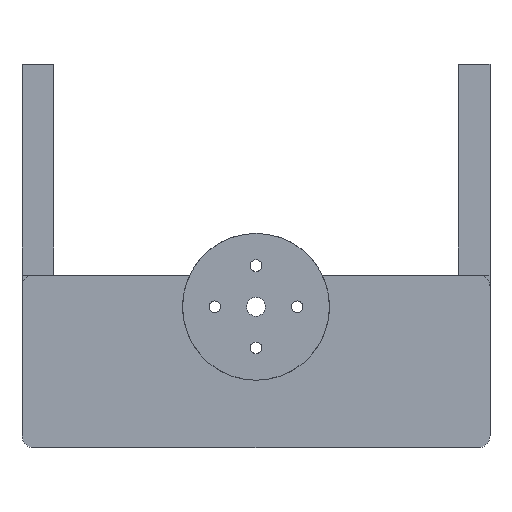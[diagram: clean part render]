
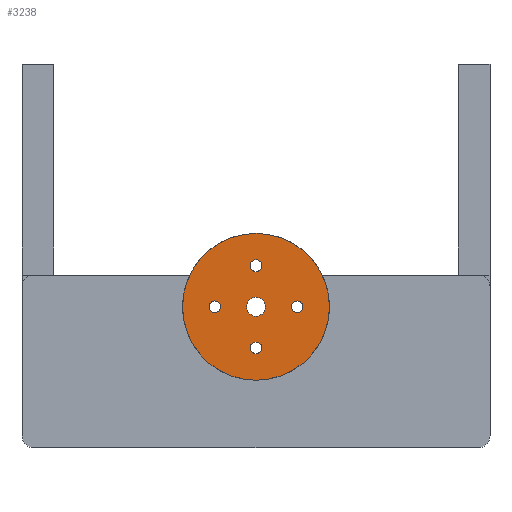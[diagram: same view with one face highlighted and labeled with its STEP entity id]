
A CAD part, front view. The second image highlights one B-rep face of the part: STEP entity #3238.
In plain terms, the highlighted planar face has unit normal (0, -1, 0).
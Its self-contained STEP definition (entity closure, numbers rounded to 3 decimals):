
#435 = CYLINDRICAL_SURFACE('',#436,12.5);
#436 = AXIS2_PLACEMENT_3D('',#437,#438,#439);
#437 = CARTESIAN_POINT('',(0.,0.,0.));
#438 = DIRECTION('',(0.,1.,0.));
#439 = DIRECTION('',(0.,-0.,1.));
#834 = CYLINDRICAL_SURFACE('',#835,1.);
#835 = AXIS2_PLACEMENT_3D('',#836,#837,#838);
#836 = CARTESIAN_POINT('',(-7.,-0.5,0.));
#837 = DIRECTION('',(0.,1.,0.));
#838 = DIRECTION('',(0.,-0.,1.));
#865 = CYLINDRICAL_SURFACE('',#866,1.);
#866 = AXIS2_PLACEMENT_3D('',#867,#868,#869);
#867 = CARTESIAN_POINT('',(0.,-0.5,-7.));
#868 = DIRECTION('',(0.,1.,0.));
#869 = DIRECTION('',(0.,-0.,1.));
#896 = CYLINDRICAL_SURFACE('',#897,1.6);
#897 = AXIS2_PLACEMENT_3D('',#898,#899,#900);
#898 = CARTESIAN_POINT('',(0.,-0.5,0.));
#899 = DIRECTION('',(0.,1.,0.));
#900 = DIRECTION('',(0.,-0.,1.));
#927 = CYLINDRICAL_SURFACE('',#928,1.);
#928 = AXIS2_PLACEMENT_3D('',#929,#930,#931);
#929 = CARTESIAN_POINT('',(7.,-0.5,0.));
#930 = DIRECTION('',(0.,1.,0.));
#931 = DIRECTION('',(0.,-0.,1.));
#2039 = VERTEX_POINT('',#2040);
#2040 = CARTESIAN_POINT('',(0.,0.,12.5));
#2111 = EDGE_CURVE('',#2039,#2039,#2112,.T.);
#2112 = SURFACE_CURVE('',#2113,(#2118,#2125),.PCURVE_S1.);
#2113 = CIRCLE('',#2114,12.5);
#2114 = AXIS2_PLACEMENT_3D('',#2115,#2116,#2117);
#2115 = CARTESIAN_POINT('',(0.,0.,0.));
#2116 = DIRECTION('',(0.,1.,0.));
#2117 = DIRECTION('',(0.,-0.,1.));
#2118 = PCURVE('',#435,#2119);
#2119 = DEFINITIONAL_REPRESENTATION('',(#2120),#2124);
#2120 = LINE('',#2121,#2122);
#2121 = CARTESIAN_POINT('',(0.,0.));
#2122 = VECTOR('',#2123,1.);
#2123 = DIRECTION('',(1.,0.));
#2124 = ( GEOMETRIC_REPRESENTATION_CONTEXT(2) 
PARAMETRIC_REPRESENTATION_CONTEXT() REPRESENTATION_CONTEXT('2D SPACE',''
  ) );
#2125 = PCURVE('',#2126,#2131);
#2126 = PLANE('',#2127);
#2127 = AXIS2_PLACEMENT_3D('',#2128,#2129,#2130);
#2128 = CARTESIAN_POINT('',(0.,0.,0.));
#2129 = DIRECTION('',(0.,1.,0.));
#2130 = DIRECTION('',(0.,-0.,1.));
#2131 = DEFINITIONAL_REPRESENTATION('',(#2132),#2136);
#2132 = CIRCLE('',#2133,12.5);
#2133 = AXIS2_PLACEMENT_2D('',#2134,#2135);
#2134 = CARTESIAN_POINT('',(0.,0.));
#2135 = DIRECTION('',(1.,0.));
#2136 = ( GEOMETRIC_REPRESENTATION_CONTEXT(2) 
PARAMETRIC_REPRESENTATION_CONTEXT() REPRESENTATION_CONTEXT('2D SPACE',''
  ) );
#2285 = VERTEX_POINT('',#2286);
#2286 = CARTESIAN_POINT('',(-7.,0.,1.));
#2307 = EDGE_CURVE('',#2285,#2285,#2308,.T.);
#2308 = SURFACE_CURVE('',#2309,(#2314,#2321),.PCURVE_S1.);
#2309 = CIRCLE('',#2310,1.);
#2310 = AXIS2_PLACEMENT_3D('',#2311,#2312,#2313);
#2311 = CARTESIAN_POINT('',(-7.,0.,0.));
#2312 = DIRECTION('',(0.,1.,0.));
#2313 = DIRECTION('',(0.,-0.,1.));
#2314 = PCURVE('',#834,#2315);
#2315 = DEFINITIONAL_REPRESENTATION('',(#2316),#2320);
#2316 = LINE('',#2317,#2318);
#2317 = CARTESIAN_POINT('',(0.,0.5));
#2318 = VECTOR('',#2319,1.);
#2319 = DIRECTION('',(1.,0.));
#2320 = ( GEOMETRIC_REPRESENTATION_CONTEXT(2) 
PARAMETRIC_REPRESENTATION_CONTEXT() REPRESENTATION_CONTEXT('2D SPACE',''
  ) );
#2321 = PCURVE('',#2126,#2322);
#2322 = DEFINITIONAL_REPRESENTATION('',(#2323),#2327);
#2323 = CIRCLE('',#2324,1.);
#2324 = AXIS2_PLACEMENT_2D('',#2325,#2326);
#2325 = CARTESIAN_POINT('',(0.,-7.));
#2326 = DIRECTION('',(1.,0.));
#2327 = ( GEOMETRIC_REPRESENTATION_CONTEXT(2) 
PARAMETRIC_REPRESENTATION_CONTEXT() REPRESENTATION_CONTEXT('2D SPACE',''
  ) );
#2335 = VERTEX_POINT('',#2336);
#2336 = CARTESIAN_POINT('',(0.,0.,-6.));
#2357 = EDGE_CURVE('',#2335,#2335,#2358,.T.);
#2358 = SURFACE_CURVE('',#2359,(#2364,#2371),.PCURVE_S1.);
#2359 = CIRCLE('',#2360,1.);
#2360 = AXIS2_PLACEMENT_3D('',#2361,#2362,#2363);
#2361 = CARTESIAN_POINT('',(0.,0.,-7.));
#2362 = DIRECTION('',(0.,1.,0.));
#2363 = DIRECTION('',(0.,-0.,1.));
#2364 = PCURVE('',#865,#2365);
#2365 = DEFINITIONAL_REPRESENTATION('',(#2366),#2370);
#2366 = LINE('',#2367,#2368);
#2367 = CARTESIAN_POINT('',(0.,0.5));
#2368 = VECTOR('',#2369,1.);
#2369 = DIRECTION('',(1.,0.));
#2370 = ( GEOMETRIC_REPRESENTATION_CONTEXT(2) 
PARAMETRIC_REPRESENTATION_CONTEXT() REPRESENTATION_CONTEXT('2D SPACE',''
  ) );
#2371 = PCURVE('',#2126,#2372);
#2372 = DEFINITIONAL_REPRESENTATION('',(#2373),#2377);
#2373 = CIRCLE('',#2374,1.);
#2374 = AXIS2_PLACEMENT_2D('',#2375,#2376);
#2375 = CARTESIAN_POINT('',(-7.,0.));
#2376 = DIRECTION('',(1.,0.));
#2377 = ( GEOMETRIC_REPRESENTATION_CONTEXT(2) 
PARAMETRIC_REPRESENTATION_CONTEXT() REPRESENTATION_CONTEXT('2D SPACE',''
  ) );
#2385 = VERTEX_POINT('',#2386);
#2386 = CARTESIAN_POINT('',(0.,0.,1.6));
#2407 = EDGE_CURVE('',#2385,#2385,#2408,.T.);
#2408 = SURFACE_CURVE('',#2409,(#2414,#2421),.PCURVE_S1.);
#2409 = CIRCLE('',#2410,1.6);
#2410 = AXIS2_PLACEMENT_3D('',#2411,#2412,#2413);
#2411 = CARTESIAN_POINT('',(0.,0.,0.));
#2412 = DIRECTION('',(0.,1.,0.));
#2413 = DIRECTION('',(0.,-0.,1.));
#2414 = PCURVE('',#896,#2415);
#2415 = DEFINITIONAL_REPRESENTATION('',(#2416),#2420);
#2416 = LINE('',#2417,#2418);
#2417 = CARTESIAN_POINT('',(0.,0.5));
#2418 = VECTOR('',#2419,1.);
#2419 = DIRECTION('',(1.,0.));
#2420 = ( GEOMETRIC_REPRESENTATION_CONTEXT(2) 
PARAMETRIC_REPRESENTATION_CONTEXT() REPRESENTATION_CONTEXT('2D SPACE',''
  ) );
#2421 = PCURVE('',#2126,#2422);
#2422 = DEFINITIONAL_REPRESENTATION('',(#2423),#2427);
#2423 = CIRCLE('',#2424,1.6);
#2424 = AXIS2_PLACEMENT_2D('',#2425,#2426);
#2425 = CARTESIAN_POINT('',(0.,0.));
#2426 = DIRECTION('',(1.,0.));
#2427 = ( GEOMETRIC_REPRESENTATION_CONTEXT(2) 
PARAMETRIC_REPRESENTATION_CONTEXT() REPRESENTATION_CONTEXT('2D SPACE',''
  ) );
#2435 = VERTEX_POINT('',#2436);
#2436 = CARTESIAN_POINT('',(7.,0.,1.));
#2457 = EDGE_CURVE('',#2435,#2435,#2458,.T.);
#2458 = SURFACE_CURVE('',#2459,(#2464,#2471),.PCURVE_S1.);
#2459 = CIRCLE('',#2460,1.);
#2460 = AXIS2_PLACEMENT_3D('',#2461,#2462,#2463);
#2461 = CARTESIAN_POINT('',(7.,0.,0.));
#2462 = DIRECTION('',(0.,1.,0.));
#2463 = DIRECTION('',(0.,-0.,1.));
#2464 = PCURVE('',#927,#2465);
#2465 = DEFINITIONAL_REPRESENTATION('',(#2466),#2470);
#2466 = LINE('',#2467,#2468);
#2467 = CARTESIAN_POINT('',(0.,0.5));
#2468 = VECTOR('',#2469,1.);
#2469 = DIRECTION('',(1.,0.));
#2470 = ( GEOMETRIC_REPRESENTATION_CONTEXT(2) 
PARAMETRIC_REPRESENTATION_CONTEXT() REPRESENTATION_CONTEXT('2D SPACE',''
  ) );
#2471 = PCURVE('',#2126,#2472);
#2472 = DEFINITIONAL_REPRESENTATION('',(#2473),#2477);
#2473 = CIRCLE('',#2474,1.);
#2474 = AXIS2_PLACEMENT_2D('',#2475,#2476);
#2475 = CARTESIAN_POINT('',(0.,7.));
#2476 = DIRECTION('',(1.,0.));
#2477 = ( GEOMETRIC_REPRESENTATION_CONTEXT(2) 
PARAMETRIC_REPRESENTATION_CONTEXT() REPRESENTATION_CONTEXT('2D SPACE',''
  ) );
#3200 = CYLINDRICAL_SURFACE('',#3201,1.);
#3201 = AXIS2_PLACEMENT_3D('',#3202,#3203,#3204);
#3202 = CARTESIAN_POINT('',(0.,-0.5,7.));
#3203 = DIRECTION('',(0.,1.,0.));
#3204 = DIRECTION('',(0.,-0.,1.));
#3238 = ADVANCED_FACE('',(#3239,#3242,#3245,#3248,#3251,#3277),#2126,.F.
  );
#3239 = FACE_BOUND('',#3240,.F.);
#3240 = EDGE_LOOP('',(#3241));
#3241 = ORIENTED_EDGE('',*,*,#2111,.T.);
#3242 = FACE_BOUND('',#3243,.F.);
#3243 = EDGE_LOOP('',(#3244));
#3244 = ORIENTED_EDGE('',*,*,#2307,.F.);
#3245 = FACE_BOUND('',#3246,.F.);
#3246 = EDGE_LOOP('',(#3247));
#3247 = ORIENTED_EDGE('',*,*,#2357,.F.);
#3248 = FACE_BOUND('',#3249,.F.);
#3249 = EDGE_LOOP('',(#3250));
#3250 = ORIENTED_EDGE('',*,*,#2407,.F.);
#3251 = FACE_BOUND('',#3252,.F.);
#3252 = EDGE_LOOP('',(#3253));
#3253 = ORIENTED_EDGE('',*,*,#3254,.F.);
#3254 = EDGE_CURVE('',#3255,#3255,#3257,.T.);
#3255 = VERTEX_POINT('',#3256);
#3256 = CARTESIAN_POINT('',(0.,0.,8.));
#3257 = SURFACE_CURVE('',#3258,(#3263,#3270),.PCURVE_S1.);
#3258 = CIRCLE('',#3259,1.);
#3259 = AXIS2_PLACEMENT_3D('',#3260,#3261,#3262);
#3260 = CARTESIAN_POINT('',(0.,0.,7.));
#3261 = DIRECTION('',(0.,1.,0.));
#3262 = DIRECTION('',(0.,-0.,1.));
#3263 = PCURVE('',#2126,#3264);
#3264 = DEFINITIONAL_REPRESENTATION('',(#3265),#3269);
#3265 = CIRCLE('',#3266,1.);
#3266 = AXIS2_PLACEMENT_2D('',#3267,#3268);
#3267 = CARTESIAN_POINT('',(7.,0.));
#3268 = DIRECTION('',(1.,0.));
#3269 = ( GEOMETRIC_REPRESENTATION_CONTEXT(2) 
PARAMETRIC_REPRESENTATION_CONTEXT() REPRESENTATION_CONTEXT('2D SPACE',''
  ) );
#3270 = PCURVE('',#3200,#3271);
#3271 = DEFINITIONAL_REPRESENTATION('',(#3272),#3276);
#3272 = LINE('',#3273,#3274);
#3273 = CARTESIAN_POINT('',(0.,0.5));
#3274 = VECTOR('',#3275,1.);
#3275 = DIRECTION('',(1.,0.));
#3276 = ( GEOMETRIC_REPRESENTATION_CONTEXT(2) 
PARAMETRIC_REPRESENTATION_CONTEXT() REPRESENTATION_CONTEXT('2D SPACE',''
  ) );
#3277 = FACE_BOUND('',#3278,.F.);
#3278 = EDGE_LOOP('',(#3279));
#3279 = ORIENTED_EDGE('',*,*,#2457,.F.);
